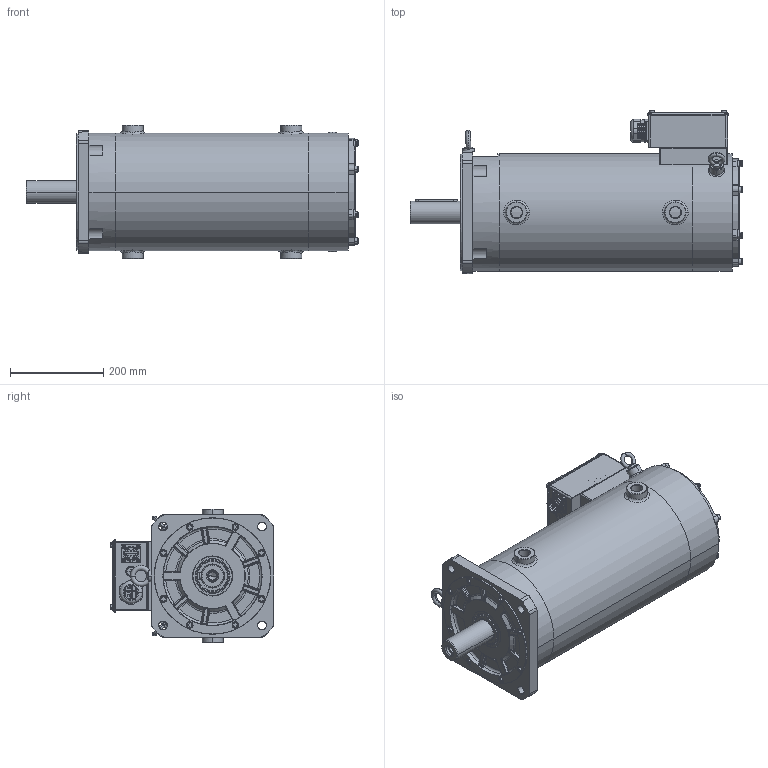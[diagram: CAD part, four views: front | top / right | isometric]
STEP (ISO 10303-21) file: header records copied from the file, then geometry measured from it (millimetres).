
FILE_DESCRIPTION((''),'2;1');
FILE_NAME('MOTOR-360____SW0001','2026-02-12T16:37:22',('01002423'),(''),'CREO PARAMETRIC BY PTC INC, 2019080','CREO PARAMETRIC BY PTC INC, 2019080','');
FILE_SCHEMA(('CONFIG_CONTROL_DESIGN'));
Length unit declared in the file: millimetre
Products named in the file (1): MOTOR-360____SW0001
Bounding box: 712 x 350.99 x 287 mm (x, y, z)
Surface area: 2387402.4 mm2 (no closed solid volume)
Topology: 0 solids, 109 shells, 1965 faces, 6554 edges, 4685 vertices
Faces by surface type: plane 696, cylinder 572, bspline 360, cone 163, torus 150, sphere 24
Entity records: 118710 total; most frequent: CARTESIAN_POINT 63778, DIRECTION 10977, ORIENTED_EDGE 10833, EDGE_CURVE 6522, VERTEX_POINT 4685, AXIS2_PLACEMENT_3D 3871, VECTOR 3235, LINE 3235
